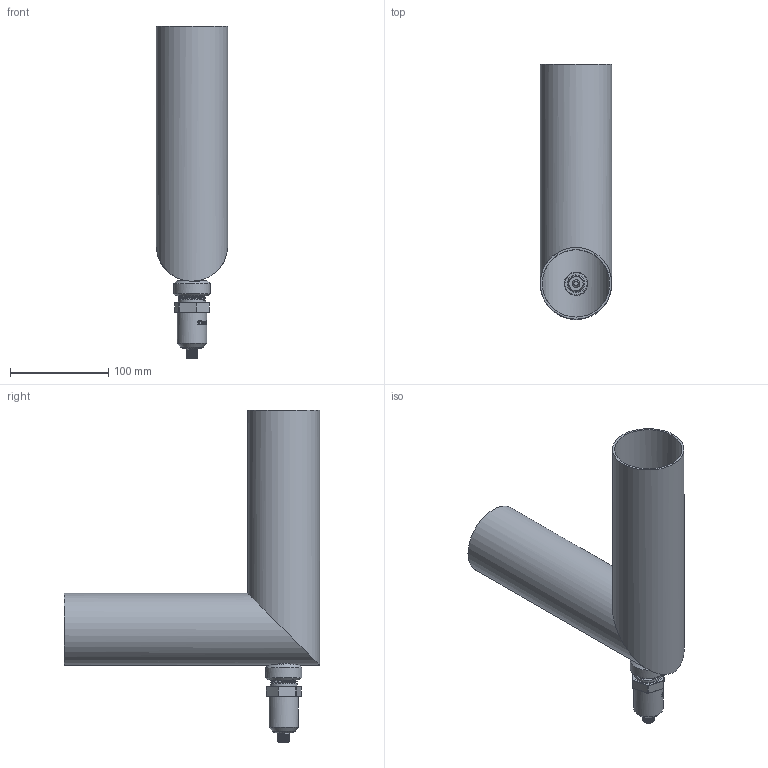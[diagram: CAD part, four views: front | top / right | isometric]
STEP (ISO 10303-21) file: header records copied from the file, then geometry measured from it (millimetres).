
FILE_DESCRIPTION(/* description */ ('Unknown'),/* implementation_level */ '2;1');
FILE_NAME(/* name */ 'WOL-34NL_SRV_Right-Angled-Elbow',/* time_stamp */ '2023-02-08T11:03:36-05:00',/* author */ ('Unknown'),/* organization */ ('Unknown'),/* preprocessor_version */ 'ST-DEVELOPER v16.7',/* originating_system */ 'Solid Edge',/* authorisation */ 'Unknown');
FILE_SCHEMA (('AUTOMOTIVE_DESIGN {1 0 10303 214 3 1 1}'));
Length unit declared in the file: millimetre
Products named in the file (4): WOL-34NL_SRV_right_angle_elbow; 90-degree-elbow; P1_A; P4_A
Assembly tree (3 placements, depth 2):
  WOL-34NL_SRV_right_angle_elbow
    90-degree-elbow
    P1_A
    P4_A
Bounding box: 73 x 260 x 338.4 mm (x, y, z)
Volume: 217463.3 mm3; surface area: 214078.3 mm2
Topology: 2 solids, 3 shells, 245 faces, 621 edges, 391 vertices
Faces by surface type: bspline 86, plane 82, cylinder 45, cone 21, sphere 8, torus 3
Full cylindrical faces by diameter (mm): 0.8 x8, 5 x1, 8 x2, 12 x7, 16 x1, 24 x1, 30 x1, 37 x1, 68.78 x2, 73 x2
Entity records: 18819 total; most frequent: CARTESIAN_POINT 12750, ORIENTED_EDGE 976, DIRECTION 661, EDGE_CURVE 488, VERTEX_POINT 329, EDGE_LOOP 299, FACE_BOUND 299, ADVANCED_FACE 229
